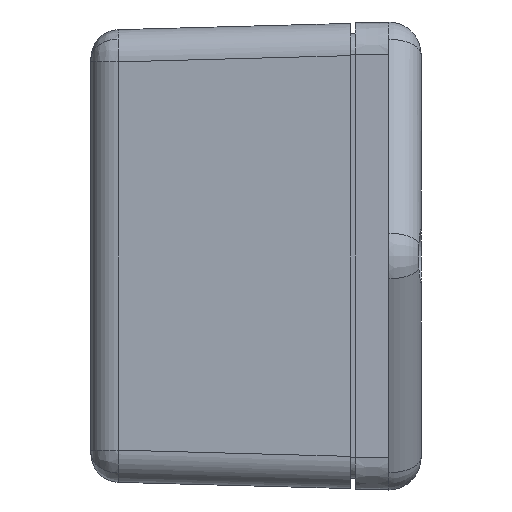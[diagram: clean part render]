
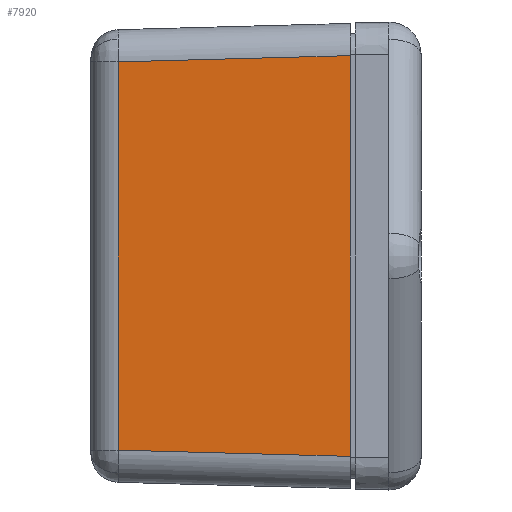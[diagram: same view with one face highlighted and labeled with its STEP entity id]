
A CAD part, left-side view. The second image highlights one B-rep face of the part: STEP entity #7920.
In plain terms, the highlighted planar face has unit normal (-1, 0.027, 0) as drawn and (1, -0.027, 0) by its records, which use the part's own axes.
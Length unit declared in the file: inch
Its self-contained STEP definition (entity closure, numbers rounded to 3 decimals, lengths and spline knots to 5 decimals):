
#839 = EDGE_LOOP ( 'NONE', ( #6216, #6242, #6268, #5897 ) ) ;
#1037 = EDGE_CURVE ( 'NONE', #8847, #8905, #2237, .T. ) ;
#1074 = EDGE_CURVE ( 'NONE', #8799, #10455, #1724, .T. ) ;
#1390 = VECTOR ( 'NONE', #5652, 39.37008 ) ;
#1460 = LINE ( 'NONE', #6713, #2040 ) ;
#1724 = LINE ( 'NONE', #10962, #2537 ) ;
#1927 = EDGE_CURVE ( 'NONE', #8799, #8905, #1997, .T. ) ;
#1993 = EDGE_CURVE ( 'NONE', #10455, #8847, #1460, .T. ) ;
#1997 = LINE ( 'NONE', #5756, #1390 ) ;
#2040 = VECTOR ( 'NONE', #6639, 39.37008 ) ;
#2237 = LINE ( 'NONE', #10993, #2336 ) ;
#2336 = VECTOR ( 'NONE', #10677, 39.37008 ) ;
#2537 = VECTOR ( 'NONE', #11104, 39.37008 ) ;
#4742 = AXIS2_PLACEMENT_3D ( 'NONE', #9529, #9558, #9555 ) ;
#5652 = DIRECTION ( 'NONE',  ( 0., 0., -1. ) ) ;
#5756 = CARTESIAN_POINT ( 'NONE',  ( 2.03, 0., -0.902 ) ) ;
#5897 = ORIENTED_EDGE ( 'NONE', *, *, #1074, .T. ) ;
#6216 = ORIENTED_EDGE ( 'NONE', *, *, #1993, .T. ) ;
#6242 = ORIENTED_EDGE ( 'NONE', *, *, #1037, .T. ) ;
#6268 = ORIENTED_EDGE ( 'NONE', *, *, #1927, .F. ) ;
#6639 = DIRECTION ( 'NONE',  ( 0., 0., -1. ) ) ;
#6713 = CARTESIAN_POINT ( 'NONE',  ( 2.00583, -0.89893, -0.902 ) ) ;
#7235 = CARTESIAN_POINT ( 'NONE',  ( 2.00583, -0.89893, 0.75288 ) ) ;
#7373 = CARTESIAN_POINT ( 'NONE',  ( 2.00583, -0.89893, -0.75288 ) ) ;
#7442 = CARTESIAN_POINT ( 'NONE',  ( 2.03, 0., -0.77705 ) ) ;
#7669 = CARTESIAN_POINT ( 'NONE',  ( 2.03, 0., 0.77705 ) ) ;
#7920 = ADVANCED_FACE ( 'NONE', ( #9062 ), #9543, .T. ) ;
#8799 = VERTEX_POINT ( 'NONE', #7669 ) ;
#8847 = VERTEX_POINT ( 'NONE', #7373 ) ;
#8905 = VERTEX_POINT ( 'NONE', #7442 ) ;
#9062 = FACE_OUTER_BOUND ( 'NONE', #839, .T. ) ;
#9529 = CARTESIAN_POINT ( 'NONE',  ( 2.03, 0., -0.902 ) ) ;
#9543 = PLANE ( 'NONE',  #4742 ) ;
#9555 = DIRECTION ( 'NONE',  ( 0.027, 1., 0. ) ) ;
#9558 = DIRECTION ( 'NONE',  ( 1., -0.027, 0. ) ) ;
#10455 = VERTEX_POINT ( 'NONE', #7235 ) ;
#10677 = DIRECTION ( 'NONE',  ( 0.027, 0.999, -0.027 ) ) ;
#10962 = CARTESIAN_POINT ( 'NONE',  ( 2.02879, -0.04508, 0.77583 ) ) ;
#10993 = CARTESIAN_POINT ( 'NONE',  ( 2.03009, 0.00335, -0.77714 ) ) ;
#11104 = DIRECTION ( 'NONE',  ( -0.027, -0.999, -0.027 ) ) ;
